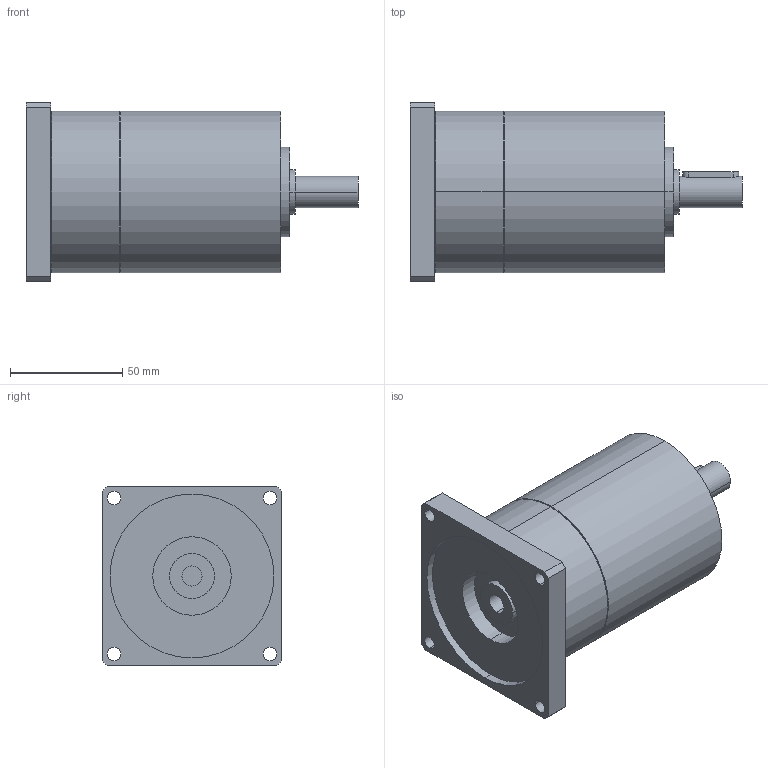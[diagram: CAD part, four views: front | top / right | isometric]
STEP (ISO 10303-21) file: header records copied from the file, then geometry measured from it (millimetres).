
FILE_DESCRIPTION(('CoCreate Modeling STEP Export'),'2;1');
FILE_NAME('GPT75_ig-9-12-16-20-25-28-35-40-50-70-100_14_B14T_9_P06.stp','2014-08-27T13:27:07',(''),(''),'CoCreate Modeling STEP processor for AP214 (Solid Model)','CoCreate Modeling 16.00C 25-Feb-2009 (C) Parametric Technology GmbH','');
FILE_SCHEMA(('AUTOMOTIVE_DESIGN { 1 0 10303 214 1 1 1 1 }'));
Length unit declared in the file: millimetre
Products named in the file (2): GPT75_ig-9-12-16-20-25-28-35-40-50-70-100_14_B14T_9_P06
Assembly tree (1 placements, depth 2):
  GPT75_ig-9-12-16-20-25-28-35-40-50-70-100_14_B14T_9_P06
    GPT75_ig-9-12-16-20-25-28-35-40-50-70-100_14_B14T_9_P06
Bounding box: 148 x 80 x 80 mm (x, y, z)
Volume: 472868.5 mm3; surface area: 45937.6 mm2
Topology: 1 solids, 1 shells, 69 faces, 166 edges, 113 vertices
Faces by surface type: cylinder 42, plane 23, cone 4
Entity records: 2161 total; most frequent: CARTESIAN_POINT 664, ORIENTED_EDGE 332, DIRECTION 262, EDGE_CURVE 166, VERTEX_POINT 113, AXIS2_PLACEMENT_3D 99, EDGE_LOOP 91, FACE_OUTER_BOUND 69
